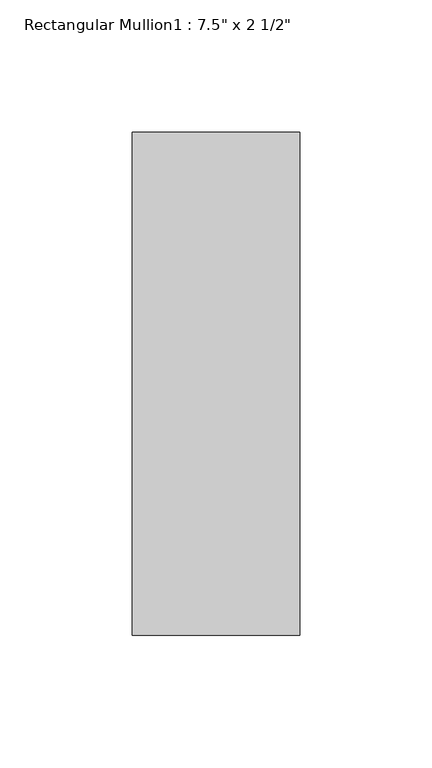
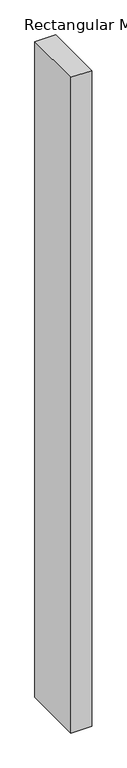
"""IFC4 building model written with IfcOpenShell, lengths in millimetres: member geometry."""

from ifc_helpers import new_model, si_unit, frame, origin, place, context, project, spatial, polyline, outline, extrude, source, transform, mapped, element, save


def member_1b4f8f8f(model_context):
    return source(origin(), model_context, "Body", "SweptSolid", [
        extrude(outline(polyline([(0.0, 165.1), (0.0, -25.4), (-63.5, -25.4), (-63.5, 165.1), (0.0, 165.1)])), frame((0.0, 0.0, -2120.9), z_axis=(0.0, 0.0, 1.0), x_axis=(1.0, 0.0, 0.0)), (0.0, 0.0, 1.0), 2120.9),
    ])


if __name__ == "__main__":
    model = new_model("IFC4")
    model_context = context("Model", 3, world=origin())
    ifc_project = project(units=[si_unit("LENGTHUNIT", "METRE", prefix="MILLI")], contexts=[model_context])
    site = spatial("IfcSite", under=ifc_project)
    building = spatial("IfcBuilding", under=site)
    placement = place(None, origin())
    member_shape = member_1b4f8f8f(model_context)
    element("IfcMember", 1, ObjectType="Rectangular Mullion1 : 7.5\" x 2 1/2\"", at=placement, inside=building, context=model_context, shape_type="MappedRepresentation", body=[
        mapped(member_shape, transform((0.0, 0.0, 0.0), x_axis=(1.0, 0.0, 0.0), y_axis=(0.0, 1.0, 0.0), z_axis=(0.0, 0.0, 1.0))),
    ])
    save(model, "model.ifc")
